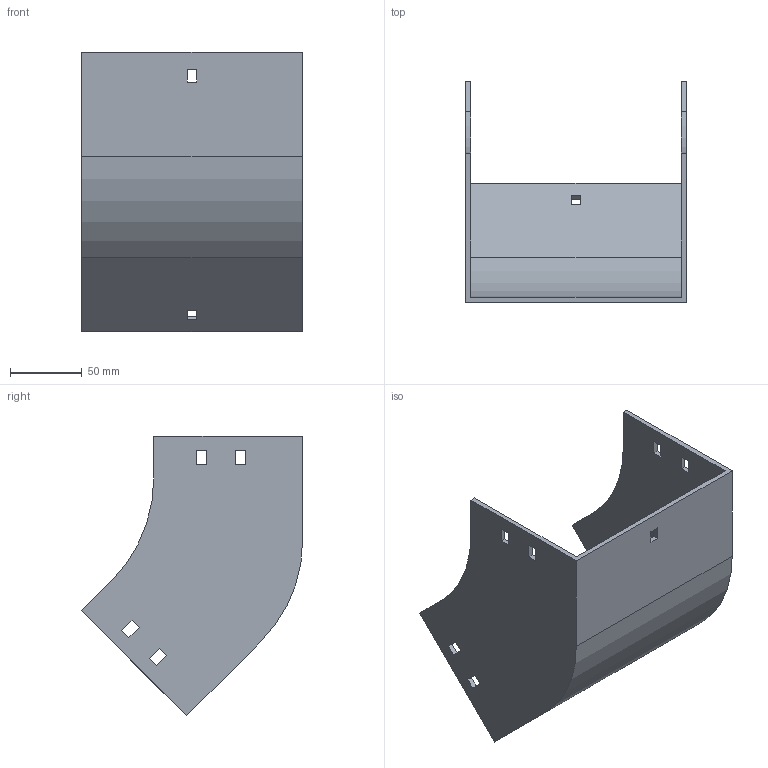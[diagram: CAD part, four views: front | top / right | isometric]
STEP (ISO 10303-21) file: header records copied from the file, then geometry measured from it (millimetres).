
FILE_DESCRIPTION (( 'STEP AP214' ), '1' );
FILE_NAME ('31F1D150.step', '2025-02-21T12:58:57', ( '' ), ( '' ), 'SwSTEP 2.0', 'SolidWorks 2023', '' );
FILE_SCHEMA (( 'AUTOMOTIVE_DESIGN' ));
Length unit declared in the file: millimetre
Products named in the file (1): 31F1D150
Bounding box: 154 x 154.5 x 195.46 mm (x, y, z)
Volume: 247880 mm3; surface area: 146279.1 mm2
Topology: 1 solids, 1 shells, 58 faces, 168 edges, 112 vertices
Faces by surface type: plane 54, cylinder 4
Entity records: 1943 total; most frequent: CARTESIAN_POINT 339, ORIENTED_EDGE 336, DIRECTION 294, EDGE_CURVE 168, LINE 160, VECTOR 160, VERTEX_POINT 112, EDGE_LOOP 78
